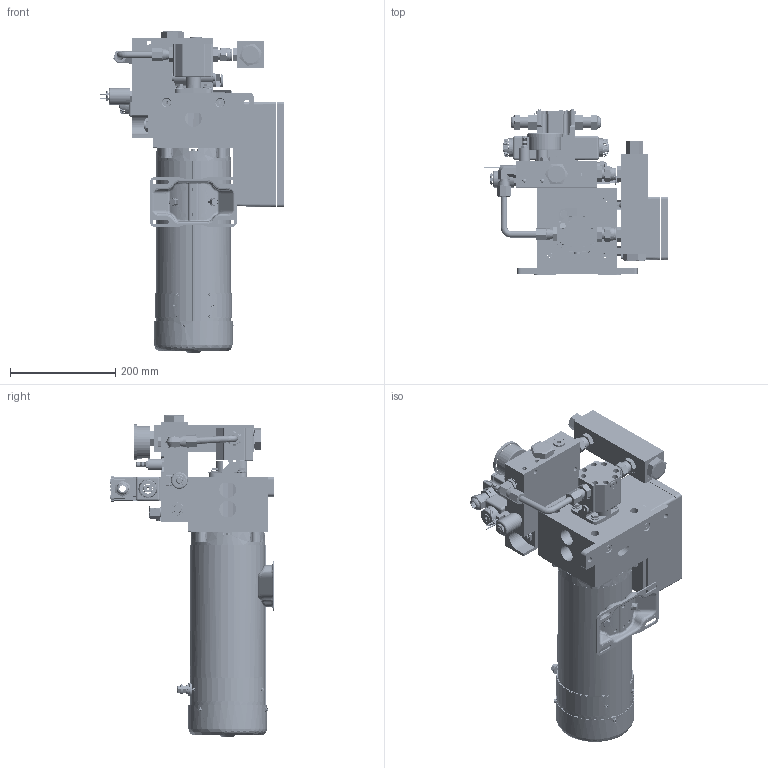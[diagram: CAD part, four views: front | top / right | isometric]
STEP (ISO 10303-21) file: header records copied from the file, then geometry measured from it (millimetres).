
FILE_DESCRIPTION (( 'STEP AP214' ), '1' );
FILE_NAME ('600-160_revB.STEP', '2019-07-26T16:44:27', ( '' ), ( '' ), 'SwSTEP 2.0', 'SolidWorks 2019', '' );
FILE_SCHEMA (( 'AUTOMOTIVE_DESIGN' ));
Length unit declared in the file: inch
Products named in the file (1): 600-160_revB
Bounding box: 351.45 x 313.63 x 611.38 mm (x, y, z)
Surface area: 1122143.8 mm2 (no closed solid volume)
Topology: 0 solids, 323 shells, 3026 faces, 17581 edges, 14552 vertices
Faces by surface type: plane 1299, cylinder 972, cone 427, bspline 302, torus 23, sphere 3
Entity records: 258719 total; most frequent: CARTESIAN_POINT 95158, ORIENTED_EDGE 22981, DIRECTION 22038, EDGE_CURVE 17527, VERTEX_POINT 14552, VECTOR 10074, LINE 10074, AXIS2_PLACEMENT_3D 5982
